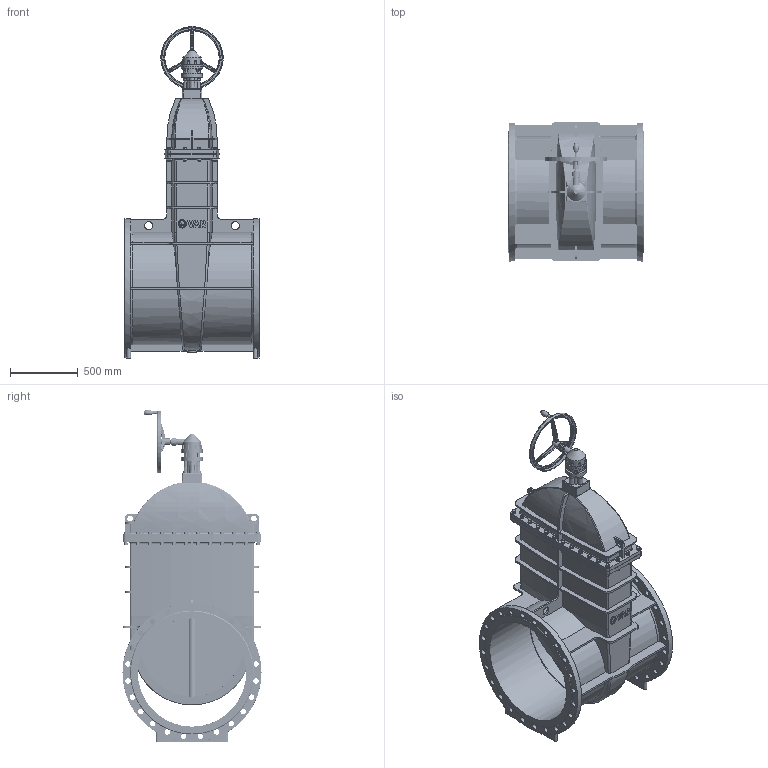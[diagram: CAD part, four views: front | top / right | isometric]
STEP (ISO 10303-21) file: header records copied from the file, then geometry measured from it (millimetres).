
FILE_DESCRIPTION(('STEP AP242'), '1');
FILE_NAME('青溻桄赅', '', ('UNSPECIFIED'), ('UNSPECIFIED'), 'C3D Converter', 'C3D Toolkit', '');
FILE_SCHEMA(('AP242_MANAGED_MODEL_BASED_3D_ENGINEERING_MIM_LF { 1 0 10303 442 1 1 4 }'));
Length unit declared in the file: millimetre
Assembly tree (195 placements, depth 2):
  (unnamed)
    (unnamed)
    (unnamed)
    (unnamed)
    (unnamed)  x2
    (unnamed)
    (unnamed)
    (unnamed)
    (unnamed)
    (unnamed)
    (unnamed)  x28
    (unnamed)  x56
    (unnamed)  x56
    (unnamed)  x28
    (unnamed)
    (unnamed)  x4
    (unnamed)  x12
Bounding box: 1000 x 1025 x 2447.32 mm (x, y, z)
Volume: 164420457 mm3; surface area: 17776045.6 mm2
Topology: 201 solids, 201 shells, 3228 faces, 7450 edges, 4684 vertices
Faces by surface type: plane 1721, cylinder 756, cone 408, extrusion 177, torus 84, bspline 82
Full cylindrical faces by diameter (mm): 3 x12, 4 x36, 6 x7, 7 x12, 8 x12, 12 x8, 13 x4, 13.835 x28, 16 x28, 17.5 x56, 18 x88, 20 x5, 24 x28, 28 x56, 30 x9, 40 x51, 50 x1, 58.667 x5, 60 x5, 61.586 x1, 122.754 x2, 138.859 x1, 154.965 x3, 400 x1, 410 x1, 450 x1, 460 x1, 757 x2, 800 x4, 851.6 x4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
Entity records: 73751 total; most frequent: CARTESIAN_POINT 33643, ORIENTED_EDGE 6634, DIRECTION 6357, EDGE_CURVE 3317, AXIS2_PLACEMENT_3D 2417, VERTEX_POINT 2334, EDGE_LOOP 1978, VECTOR 1523
